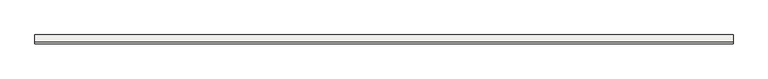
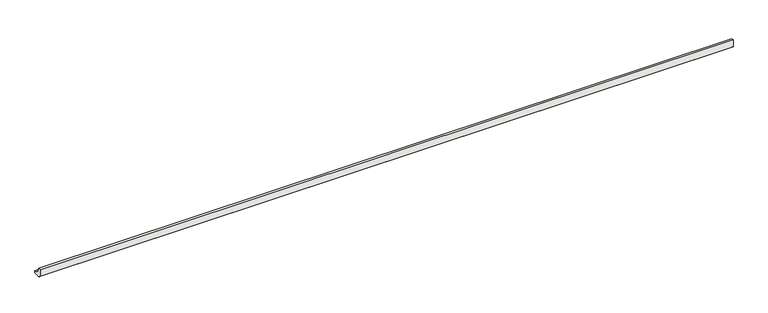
"""IFC4 building model written with IfcOpenShell, lengths in millimetres: slab geometry, ROSA GRES_188 : Pieza 188_Pietro_White_Anti-Slip."""

from ifc_helpers import new_model, si_unit, point, frame, frame_2d, origin, place, context, project, spatial, polyline, circle_curve, trimmed, segment, composite_curve, outline, extrude, source, transform, mapped, element, save


def slab_a8a3c319(model_context):
    return source(origin(), model_context, "Body", "SweptSolid", [
        extrude(outline(composite_curve([segment(polyline([(0.0, 8.7114978), (0.0, 40.0), (9.9734114, 40.0)]), True, "CONTINUOUS"), segment(trimmed(circle_curve(frame_2d((39.9955547, 39.9955547)), 30.0221435), [point((9.9734114, 40.0))], [point((40.0, 9.9734114))], True, "CARTESIAN"), True, "CONTINUOUS"), segment(polyline([(40.0, 9.9734114), (40.0, 0.0), (8.7114978, 0.0), (0.0, 8.7114978)]), True, "CONTINUOUS")], self_intersect=False)), frame((0.0, 0.0, 0.0), z_axis=(1.0, 0.0, 0.0), x_axis=(0.0, 1.0, 0.0)), (0.0, 0.0, 1.0), 3130.0),
    ])


if __name__ == "__main__":
    model = new_model("IFC4")
    model_context = context("Model", 3, world=origin())
    ifc_project = project(units=[si_unit("LENGTHUNIT", "METRE", prefix="MILLI")], contexts=[model_context])
    site = spatial("IfcSite", under=ifc_project)
    building = spatial("IfcBuilding", under=site)
    placement = place(None, origin())
    slab_shape = slab_a8a3c319(model_context)
    element("IfcSlab", 1, ObjectType="ROSA GRES_188 : Pieza 188_Pietro_White_Anti-Slip", at=placement, inside=building, context=model_context, shape_type="MappedRepresentation", body=[
        mapped(slab_shape, transform((0.0, 0.0, 0.0), x_axis=(1.0, 0.0, 0.0), y_axis=(0.0, 1.0, 0.0), z_axis=(0.0, 0.0, 1.0))),
    ])
    save(model, "model.ifc")
